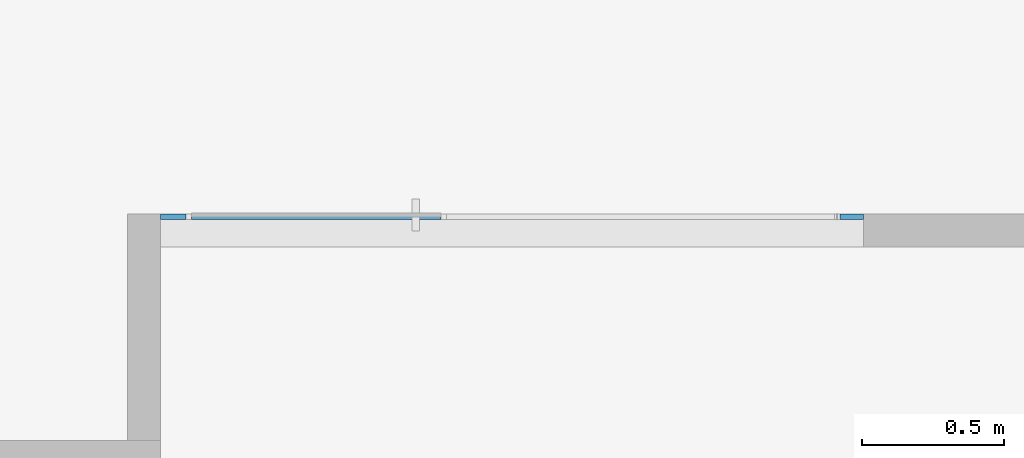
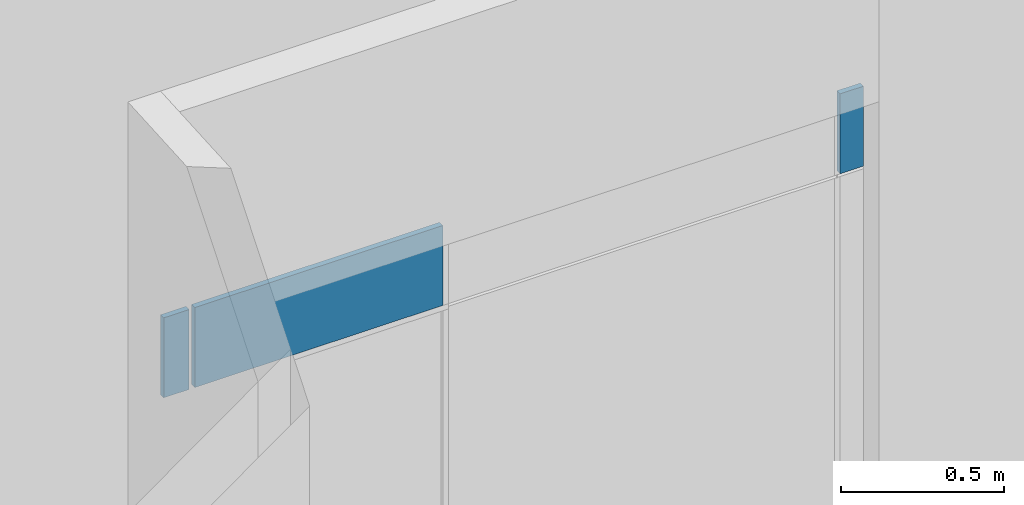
# One storey, part 21 of 46: 3 plates, 1 element without a shape of its own.
"""IFC2X3 building model written with IfcOpenShell, lengths in millimetres."""

from ifc_helpers import new_model, entity, si_unit, converted_unit, derived_unit, direction, frame, origin, origin_2d_with_axis, place, context, subcontext, project, spatial, rectangle, extrude, source, transform, mapped, material, layer, layer_set, layer_usage, type_object, type_shapes, element, aggregate, save


model = new_model("IFC2X3")

# Units and contexts
model_context = context("Model", 3, precision=0.01, world=origin(), true_north=direction((6.12303176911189e-17, 1.0)))
body_context = subcontext(model_context, "Body", "Model", "MODEL_VIEW")
ifc_project = project(units=[si_unit("LENGTHUNIT", "METRE", prefix="MILLI"), si_unit("AREAUNIT", "SQUARE_METRE"), si_unit("VOLUMEUNIT", "CUBIC_METRE"), converted_unit("PLANEANGLEUNIT", "DEGREE", entity("IfcRatioMeasure", 0.0174532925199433), si_unit("PLANEANGLEUNIT", "RADIAN"), dimensions=[0, 0, 0, 0, 0, 0, 0]), si_unit("MASSUNIT", "GRAM", prefix="KILO"), derived_unit("MASSDENSITYUNIT", [(si_unit("MASSUNIT", "GRAM", prefix="KILO"), 1), (si_unit("LENGTHUNIT", "METRE"), -3)]), si_unit("TIMEUNIT", "SECOND"), si_unit("FREQUENCYUNIT", "HERTZ"), si_unit("THERMODYNAMICTEMPERATUREUNIT", "DEGREE_CELSIUS"), derived_unit("THERMALTRANSMITTANCEUNIT", [(si_unit("MASSUNIT", "GRAM", prefix="KILO"), 1), (si_unit("THERMODYNAMICTEMPERATUREUNIT", "KELVIN"), -1), (si_unit("TIMEUNIT", "SECOND"), -3)]), derived_unit("VOLUMETRICFLOWRATEUNIT", [(si_unit("LENGTHUNIT", "METRE"), 3), (si_unit("TIMEUNIT", "SECOND"), -1)]), si_unit("ELECTRICCURRENTUNIT", "AMPERE"), si_unit("ELECTRICVOLTAGEUNIT", "VOLT"), si_unit("POWERUNIT", "WATT"), si_unit("FORCEUNIT", "NEWTON", prefix="KILO"), si_unit("ILLUMINANCEUNIT", "LUX"), si_unit("LUMINOUSFLUXUNIT", "LUMEN"), si_unit("LUMINOUSINTENSITYUNIT", "CANDELA"), derived_unit("USERDEFINED", [(si_unit("MASSUNIT", "GRAM", prefix="KILO"), -1), (si_unit("LENGTHUNIT", "METRE"), -2), (si_unit("TIMEUNIT", "SECOND"), 3), (si_unit("LUMINOUSFLUXUNIT", "LUMEN"), 1)]), derived_unit("LINEARVELOCITYUNIT", [(si_unit("LENGTHUNIT", "METRE"), 1), (si_unit("TIMEUNIT", "SECOND"), -1)]), si_unit("PRESSUREUNIT", "PASCAL"), derived_unit("USERDEFINED", [(si_unit("LENGTHUNIT", "METRE"), -2), (si_unit("MASSUNIT", "GRAM", prefix="KILO"), 1), (si_unit("TIMEUNIT", "SECOND"), -2)])], contexts=[model_context])

# Site, building, storey
site_placement = place(None, frame((-151.875543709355, 2715.0, 0.0)))
site = spatial("IfcSite", under=ifc_project, at=site_placement, Name="Surface", CompositionType="ELEMENT")
building_placement = place(site_placement, origin())
building = spatial("IfcBuilding", under=site, at=building_placement, CompositionType="ELEMENT")
storey_placement = place(building_placement, frame((0.0, 0.0, 10060.0)))
storey = spatial("IfcBuildingStorey", under=building, at=storey_placement, Name="4 korrus", CompositionType="ELEMENT", Elevation=10060.0000000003)

# Curtain wall, plates
curtain_wall_type = type_object("IfcCurtainWallType", Name="Curtain Wall:Klaassein KLS-20", PredefinedType="NOTDEFINED")
curtain_wall_placement = place(storey_placement, frame((0.0, 0.0, -10060.0)))
curtain_wall = element("IfcCurtainWall", 1, at=curtain_wall_placement, inside=storey, type_object=curtain_wall_type, Name="Curtain Wall:Klaassein KLS-20", ObjectType="Curtain Wall:Klaassein KLS-20")
ifc_material = material(Name="<Unnamed>")
ifc_layer = layer(ifc_material, 20.0)
ifc_layer_set = layer_set([ifc_layer], Name="Curtain Wall:Klaassein KLS-01")
ifc_layer_usage_1 = layer_usage(ifc_layer_set, "AXIS3", "POSITIVE", 0.0)
plate_type_1 = type_object("IfcPlateType", Name="Glazed", PredefinedType="CURTAIN_PANEL", material=ifc_layer_set)
shared_shape_1 = source(origin(), body_context, "Body", "SweptSolid", [
    extrude(rectangle(XDim=20.0, YDim=879.999999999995, at=origin_2d_with_axis()), frame((0.0, 0.0, 0.0), z_axis=(0.0, 0.0, 1.0), x_axis=(0.0, 1.0, 0.0)), (0.0, 0.0, 1.0), 299.999999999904),
])
type_shapes(plate_type_1, [shared_shape_1])
plate_1_placement = place(curtain_wall_placement, frame((28011.564726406, 4355.04493399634, 12160.0), z_axis=(0.0, 0.0, 1.0), x_axis=(-1.0, 0.0, 0.0)))
plate_1 = element("IfcPlate", 2, at=plate_1_placement, type_object=plate_type_1, material=ifc_layer_usage_1, Name="System Panel:Glazed", ObjectType="Glazed", context=body_context, shape_type="MappedRepresentation", body=[
    mapped(shared_shape_1, transform((0.0, 0.0, 0.0), scale=1.0)),
])
ifc_layer_usage_2 = layer_usage(ifc_layer_set, "AXIS3", "POSITIVE", 0.0)
plate_type_2 = type_object("IfcPlateType", Name="Glazed", PredefinedType="CURTAIN_PANEL", material=ifc_layer_set)
shared_shape_2 = source(origin(), body_context, "Body", "SweptSolid", [
    extrude(rectangle(XDim=20.0, YDim=82.9293200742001, at=origin_2d_with_axis()), frame((0.0, 0.0, 0.0), z_axis=(0.0, 0.0, 1.0), x_axis=(0.0, 1.0, 0.0)), (0.0, 0.0, 1.0), 299.999999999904),
])
type_shapes(plate_type_2, [shared_shape_2])
plate_2_placement = place(curtain_wall_placement, frame((29902.5524993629, 4355.04493399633, 12160.0), z_axis=(0.0, 0.0, 1.0), x_axis=(-1.0, 0.0, 0.0)))
plate_2 = element("IfcPlate", 3, at=plate_2_placement, type_object=plate_type_2, material=ifc_layer_usage_2, Name="System Panel:Glazed", ObjectType="Glazed", context=body_context, shape_type="MappedRepresentation", body=[
    mapped(shared_shape_2, transform((0.0, 0.0, 0.0), scale=1.0)),
])
ifc_layer_usage_3 = layer_usage(ifc_layer_set, "AXIS3", "POSITIVE", 0.0)
plate_type_3 = type_object("IfcPlateType", Name="Glazed", PredefinedType="CURTAIN_PANEL", material=ifc_layer_set)
shared_shape_3 = source(origin(), body_context, "Body", "SweptSolid", [
    extrude(rectangle(XDim=20.0, YDim=89.9999999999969, at=origin_2d_with_axis()), frame((0.0, 0.0, 0.0), z_axis=(0.0, 0.0, 1.0), x_axis=(0.0, 1.0, 0.0)), (0.0, 0.0, 1.0), 299.999999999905),
])
type_shapes(plate_type_3, [shared_shape_3])
plate_3_placement = place(curtain_wall_placement, frame((27506.564726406, 4355.04493399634, 12160.0), z_axis=(0.0, 0.0, 1.0), x_axis=(-1.0, 0.0, 0.0)))
plate_3 = element("IfcPlate", 4, at=plate_3_placement, type_object=plate_type_3, material=ifc_layer_usage_3, Name="System Panel:Glazed", ObjectType="Glazed", context=body_context, shape_type="MappedRepresentation", body=[
    mapped(shared_shape_3, transform((0.0, 0.0, 0.0), scale=1.0)),
])
aggregate(curtain_wall, [plate_2, plate_1, plate_3])

save(model, "model.ifc")
